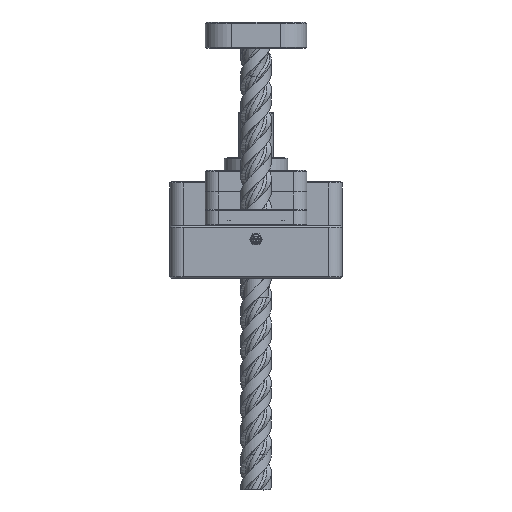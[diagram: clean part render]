
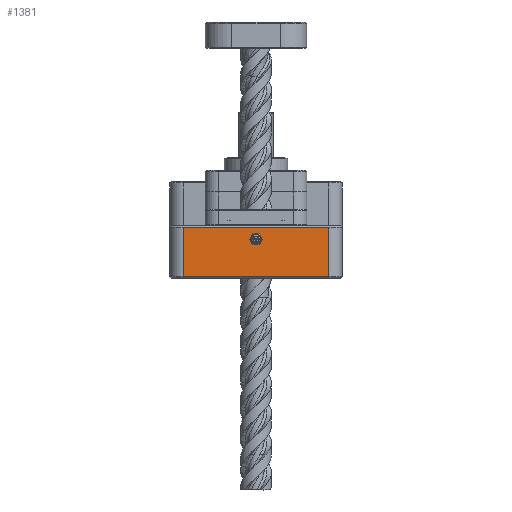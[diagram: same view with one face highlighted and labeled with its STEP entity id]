
A CAD part, left-side view. The second image highlights one B-rep face of the part: STEP entity #1381.
In plain terms, the highlighted planar face has unit normal (-1, 0, 0).
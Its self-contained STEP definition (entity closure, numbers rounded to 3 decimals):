
#1381 = ADVANCED_FACE( '', ( #3587, #3588 ), #3589, .T. );
#3587 = FACE_OUTER_BOUND( '', #8919, .T. );
#3588 = FACE_BOUND( '', #8920, .T. );
#3589 = PLANE( '', #8921 );
#8919 = EDGE_LOOP( '', ( #26312, #26313, #26314, #26315 ) );
#8920 = EDGE_LOOP( '', ( #26316 ) );
#8921 = AXIS2_PLACEMENT_3D( '', #26317, #26318, #26319 );
#26312 = ORIENTED_EDGE( '', *, *, #33118, .F. );
#26313 = ORIENTED_EDGE( '', *, *, #32482, .T. );
#26314 = ORIENTED_EDGE( '', *, *, #33119, .T. );
#26315 = ORIENTED_EDGE( '', *, *, #33120, .T. );
#26316 = ORIENTED_EDGE( '', *, *, #33121, .F. );
#26317 = CARTESIAN_POINT( '', ( -41.275, -36.513, 37.465 ) );
#26318 = DIRECTION( '', ( -1., 0., 0. ) );
#26319 = DIRECTION( '', ( 0., 0., 1. ) );
#32482 = EDGE_CURVE( '', #35403, #35408, #35410, .T. );
#33118 = EDGE_CURVE( '', #35403, #36500, #36501, .T. );
#33119 = EDGE_CURVE( '', #35408, #35682, #36502, .T. );
#33120 = EDGE_CURVE( '', #35682, #36500, #36503, .T. );
#33121 = EDGE_CURVE( '', #36504, #36504, #36505, .T. );
#35403 = VERTEX_POINT( '', #40161 );
#35408 = VERTEX_POINT( '', #40168 );
#35410 = LINE( '', #40171, #40172 );
#35682 = VERTEX_POINT( '', #40828 );
#36500 = VERTEX_POINT( '', #42942 );
#36501 = LINE( '', #42943, #42944 );
#36502 = LINE( '', #42945, #42946 );
#36503 = LINE( '', #42947, #42948 );
#36504 = VERTEX_POINT( '', #42949 );
#36505 = CIRCLE( '', #42950, 2.705 );
#40161 = CARTESIAN_POINT( '', ( -41.275, 52.388, 0.787 ) );
#40168 = CARTESIAN_POINT( '', ( -41.275, -52.388, 0.787 ) );
#40171 = CARTESIAN_POINT( '', ( -41.275, -36.513, 0.787 ) );
#40172 = VECTOR( '', #54113, 1000. );
#40828 = CARTESIAN_POINT( '', ( -41.275, -52.388, 36.678 ) );
#42942 = CARTESIAN_POINT( '', ( -41.275, 52.388, 36.678 ) );
#42943 = CARTESIAN_POINT( '', ( -41.275, 52.388, -8.662 ) );
#42944 = VECTOR( '', #54845, 1000. );
#42945 = CARTESIAN_POINT( '', ( -41.275, -52.388, 37.465 ) );
#42946 = VECTOR( '', #54846, 1000. );
#42947 = CARTESIAN_POINT( '', ( -41.275, 52.388, 36.678 ) );
#42948 = VECTOR( '', #54847, 1000. );
#42949 = CARTESIAN_POINT( '', ( -41.275, 0., 30.645 ) );
#42950 = AXIS2_PLACEMENT_3D( '', #54848, #54849, #54850 );
#54113 = DIRECTION( '', ( 0., -1., 0. ) );
#54845 = DIRECTION( '', ( 0., 0., 1. ) );
#54846 = DIRECTION( '', ( 0., 0., 1. ) );
#54847 = DIRECTION( '', ( 0., 1., 0. ) );
#54848 = CARTESIAN_POINT( '', ( -41.275, 0., 27.94 ) );
#54849 = DIRECTION( '', ( -1., 0., 0. ) );
#54850 = DIRECTION( '', ( 0., 0., 1. ) );
